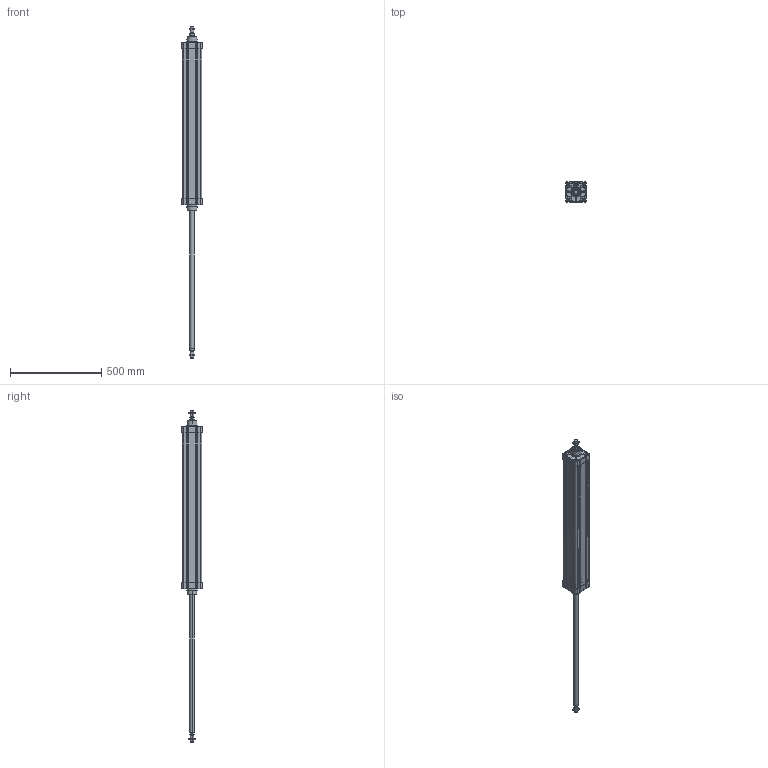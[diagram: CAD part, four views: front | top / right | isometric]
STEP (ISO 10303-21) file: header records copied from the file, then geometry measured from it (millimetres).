
FILE_DESCRIPTION (( 'STEP AP214' ), '1' );
FILE_NAME ('N11M41000750.STEP', '2021-09-28T13:50:42', ( '' ), ( '' ), 'SwSTEP 2.0', 'SolidWorks 2016', '' );
FILE_SCHEMA (( 'AUTOMOTIVE_DESIGN' ));
Length unit declared in the file: millimetre
Products named in the file (7): 21.F03.0000_21.F03.0750; Pistone Ø100 ISO 15552; N11M41000750; 21.753.0; 000.515.7_000.515.0750; 21.F01.0000_21.F01.0750; TA Ø100 ISO 15552 WEB
Assembly tree (8 placements, depth 2):
  N11M41000750
    TA Ø100 ISO 15552 WEB  x2
    Pistone Ø100 ISO 15552
    21.753.0  x2
    21.F01.0000_21.F01.0750
    000.515.7_000.515.0750
    21.F03.0000_21.F03.0750
Bounding box: 111.9 x 111.95 x 1820 mm (x, y, z)
Volume: 3721320.5 mm3; surface area: 1427462.8 mm2
Topology: 20 solids, 22 shells, 2239 faces, 5706 edges, 3571 vertices
Faces by surface type: plane 887, cylinder 678, cone 416, torus 112, bspline 108, sphere 38
Entity records: 50974 total; most frequent: CARTESIAN_POINT 9669, ORIENTED_EDGE 6398, DIRECTION 6376, EDGE_CURVE 3199, AXIS2_PLACEMENT_3D 2340, VERTEX_POINT 2023, LINE 1696, VECTOR 1696
